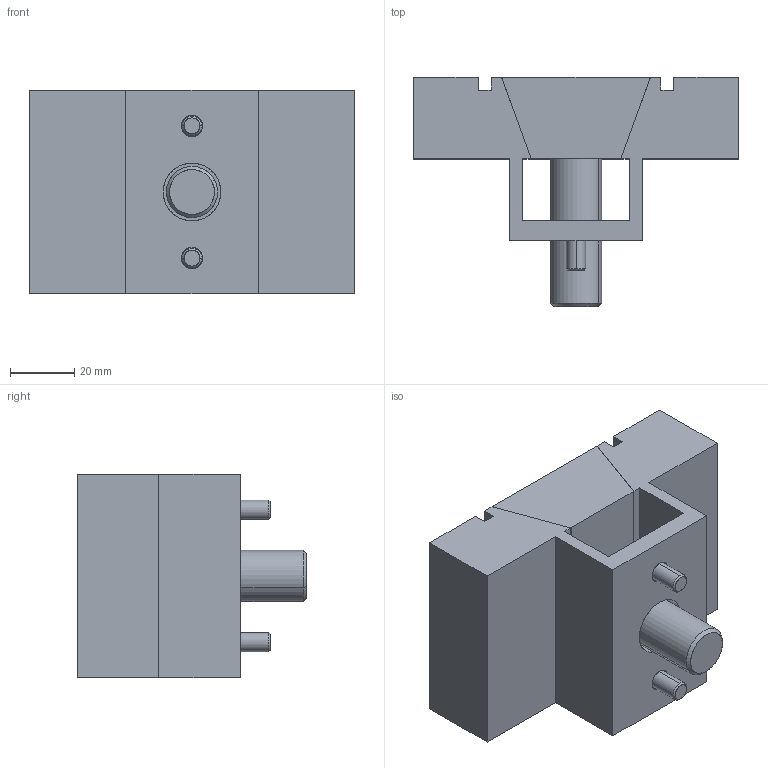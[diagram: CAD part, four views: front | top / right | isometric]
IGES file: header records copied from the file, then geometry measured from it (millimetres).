
Start section: SolidWorks IGES file using analytic representation for surfaces
Global section: file name: E:\Pending\12140_v2\12140_v2_20171107_IGES\12140.W0200.igs; native system: SolidWorks 2017; preprocessor: SolidWorks 2017; author: liam_; date: 171214.131428; units: millimetre
Bounding box: 101.6 x 71.5 x 63.5 mm (x, y, z)
Surface area: 47669.2 mm2 (no closed solid volume)
Topology: 0 solids, 0 shells, 114 faces, 1154 edges, 1150 vertices
Faces by surface type: bspline 73, revolution 41
